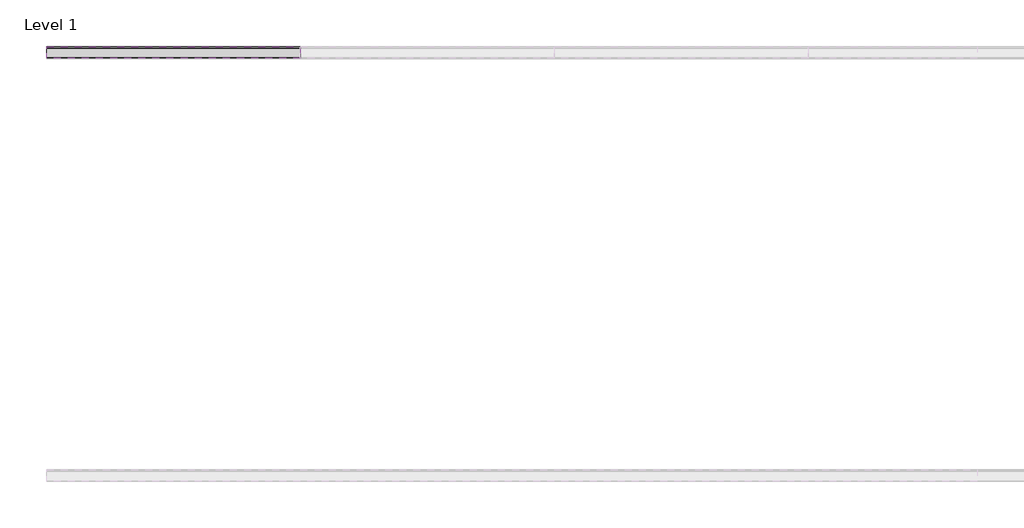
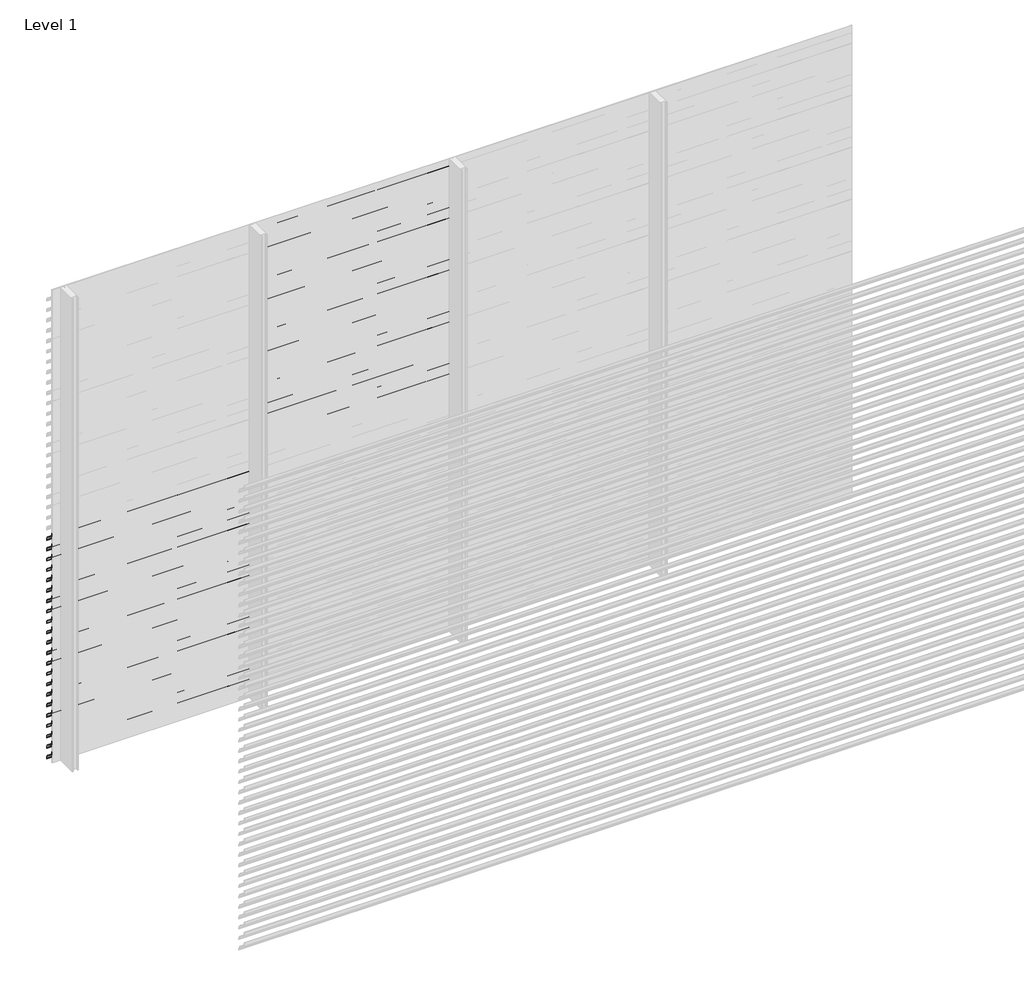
# One storey, part 125 of 540: 43 proxies.
"""IFC4 building model written with IfcOpenShell, lengths in millimetres."""

from ifc_helpers import new_model, si_unit, point, frame, frame_2d, origin, place, context, project, spatial, polyline, circle_curve, trimmed, segment, composite_curve, outline, extrude, element, save

model = new_model("IFC4")

# Units and contexts
model_context = context("Model", 3, world=origin())
ifc_project = project(units=[si_unit("LENGTHUNIT", "METRE", prefix="MILLI")], contexts=[model_context])

# Site, building, storey
site = spatial("IfcSite", under=ifc_project)
building = spatial("IfcBuilding", under=site)
storey = spatial("IfcBuildingStorey", under=building, Name="Level 1", Elevation=0.0)

# Proxies
placement = place(None, origin())
element("IfcBuildingElementProxy", 1, Name="Wall Sweeps", at=placement, inside=storey, context=model_context, shape_type="SweptSolid", body=[
    extrude(outline(composite_curve([segment(trimmed(circle_curve(frame_2d((14013.609548, 1381.7676769)), 26.4944656), [point((14030.5717655, 1402.1205608))], [point((14040.0540136, 1383.3946208))], False, "CARTESIAN"), True, "CONTINUOUS"), segment(polyline([(14040.0540136, 1383.3946208), (14040.0540136, 1375.5), (14038.8040136, 1376.2216933), (14038.8040136, 1381.7676769)]), True, "CONTINUOUS"), segment(trimmed(circle_curve(frame_2d((14013.609548, 1381.7676769)), 25.1944656), [point((14038.8040136, 1381.7676769))], [point((14029.7815085, 1401.086807))], True, "CARTESIAN"), True, "CONTINUOUS"), segment(polyline([(14029.7815085, 1401.086807), (13985.0540136, 1432.3158044), (13985.0540136, 1452.0), (13986.3040136, 1452.0), (13986.3040136, 1433.0285629), (14030.5717655, 1402.1205608)]), True, "CONTINUOUS")], self_intersect=False)), frame((89466.6208097, 0.0, 0.0), z_axis=(1.0, 0.0, 0.0), x_axis=(0.0, 1.0, 0.0)), (0.0, 0.0, 1.0), 1200.0000002),
])
element("IfcBuildingElementProxy", 2, Name="Wall Sweeps", at=placement, inside=storey, context=model_context, shape_type="SweptSolid", body=[
    extrude(outline(composite_curve([segment(trimmed(circle_curve(frame_2d((14013.609548, 1315.7676769)), 26.4944656), [point((14030.5717655, 1336.1205608))], [point((14040.0540136, 1317.3946208))], False, "CARTESIAN"), True, "CONTINUOUS"), segment(polyline([(14040.0540136, 1317.3946208), (14040.0540136, 1309.5), (14038.8040136, 1310.2216933), (14038.8040136, 1315.7676769)]), True, "CONTINUOUS"), segment(trimmed(circle_curve(frame_2d((14013.609548, 1315.7676769)), 25.1944656), [point((14038.8040136, 1315.7676769))], [point((14029.7815085, 1335.086807))], True, "CARTESIAN"), True, "CONTINUOUS"), segment(polyline([(14029.7815085, 1335.086807), (13985.0540136, 1366.3158044), (13985.0540136, 1386.0), (13986.3040136, 1386.0), (13986.3040136, 1367.0285629), (14030.5717655, 1336.1205608)]), True, "CONTINUOUS")], self_intersect=False)), frame((89466.6208097, 0.0, 0.0), z_axis=(1.0, 0.0, 0.0), x_axis=(0.0, 1.0, 0.0)), (0.0, 0.0, 1.0), 1200.0000002),
])
element("IfcBuildingElementProxy", 3, Name="Wall Sweeps", at=placement, inside=storey, context=model_context, shape_type="SweptSolid", body=[
    extrude(outline(composite_curve([segment(trimmed(circle_curve(frame_2d((14013.609548, 1249.7676769)), 26.4944656), [point((14030.5717655, 1270.1205608))], [point((14040.0540136, 1251.3946208))], False, "CARTESIAN"), True, "CONTINUOUS"), segment(polyline([(14040.0540136, 1251.3946208), (14040.0540136, 1243.5), (14038.8040136, 1244.2216933), (14038.8040136, 1249.7676769)]), True, "CONTINUOUS"), segment(trimmed(circle_curve(frame_2d((14013.609548, 1249.7676769)), 25.1944656), [point((14038.8040136, 1249.7676769))], [point((14029.7815085, 1269.086807))], True, "CARTESIAN"), True, "CONTINUOUS"), segment(polyline([(14029.7815085, 1269.086807), (13985.0540136, 1300.3158044), (13985.0540136, 1320.0), (13986.3040136, 1320.0), (13986.3040136, 1301.0285629), (14030.5717655, 1270.1205608)]), True, "CONTINUOUS")], self_intersect=False)), frame((89466.6208097, 0.0, 0.0), z_axis=(1.0, 0.0, 0.0), x_axis=(0.0, 1.0, 0.0)), (0.0, 0.0, 1.0), 1200.0000002),
])
element("IfcBuildingElementProxy", 4, Name="Wall Sweeps", at=placement, inside=storey, context=model_context, shape_type="SweptSolid", body=[
    extrude(outline(composite_curve([segment(trimmed(circle_curve(frame_2d((14013.609548, 1183.7676769)), 26.4944656), [point((14030.5717655, 1204.1205608))], [point((14040.0540136, 1185.3946208))], False, "CARTESIAN"), True, "CONTINUOUS"), segment(polyline([(14040.0540136, 1185.3946208), (14040.0540136, 1177.5), (14038.8040136, 1178.2216933), (14038.8040136, 1183.7676769)]), True, "CONTINUOUS"), segment(trimmed(circle_curve(frame_2d((14013.609548, 1183.7676769)), 25.1944656), [point((14038.8040136, 1183.7676769))], [point((14029.7815085, 1203.086807))], True, "CARTESIAN"), True, "CONTINUOUS"), segment(polyline([(14029.7815085, 1203.086807), (13985.0540136, 1234.3158044), (13985.0540136, 1254.0), (13986.3040136, 1254.0), (13986.3040136, 1235.0285629), (14030.5717655, 1204.1205608)]), True, "CONTINUOUS")], self_intersect=False)), frame((89466.6208097, 0.0, 0.0), z_axis=(1.0, 0.0, 0.0), x_axis=(0.0, 1.0, 0.0)), (0.0, 0.0, 1.0), 1200.0000002),
])
element("IfcBuildingElementProxy", 5, Name="Wall Sweeps", at=placement, inside=storey, context=model_context, shape_type="SweptSolid", body=[
    extrude(outline(composite_curve([segment(trimmed(circle_curve(frame_2d((14013.609548, 1117.7676769)), 26.4944656), [point((14030.5717655, 1138.1205608))], [point((14040.0540136, 1119.3946208))], False, "CARTESIAN"), True, "CONTINUOUS"), segment(polyline([(14040.0540136, 1119.3946208), (14040.0540136, 1111.5), (14038.8040136, 1112.2216933), (14038.8040136, 1117.7676769)]), True, "CONTINUOUS"), segment(trimmed(circle_curve(frame_2d((14013.609548, 1117.7676769)), 25.1944656), [point((14038.8040136, 1117.7676769))], [point((14029.7815085, 1137.086807))], True, "CARTESIAN"), True, "CONTINUOUS"), segment(polyline([(14029.7815085, 1137.086807), (13985.0540136, 1168.3158044), (13985.0540136, 1188.0), (13986.3040136, 1188.0), (13986.3040136, 1169.0285629), (14030.5717655, 1138.1205608)]), True, "CONTINUOUS")], self_intersect=False)), frame((89466.6208097, 0.0, 0.0), z_axis=(1.0, 0.0, 0.0), x_axis=(0.0, 1.0, 0.0)), (0.0, 0.0, 1.0), 1200.0000002),
])
element("IfcBuildingElementProxy", 6, Name="Wall Sweeps", at=placement, inside=storey, context=model_context, shape_type="SweptSolid", body=[
    extrude(outline(composite_curve([segment(trimmed(circle_curve(frame_2d((14013.609548, 1051.7676769)), 26.4944656), [point((14030.5717655, 1072.1205608))], [point((14040.0540136, 1053.3946208))], False, "CARTESIAN"), True, "CONTINUOUS"), segment(polyline([(14040.0540136, 1053.3946208), (14040.0540136, 1045.5), (14038.8040136, 1046.2216933), (14038.8040136, 1051.7676769)]), True, "CONTINUOUS"), segment(trimmed(circle_curve(frame_2d((14013.609548, 1051.7676769)), 25.1944656), [point((14038.8040136, 1051.7676769))], [point((14029.7815085, 1071.086807))], True, "CARTESIAN"), True, "CONTINUOUS"), segment(polyline([(14029.7815085, 1071.086807), (13985.0540136, 1102.3158044), (13985.0540136, 1122.0), (13986.3040136, 1122.0), (13986.3040136, 1103.0285629), (14030.5717655, 1072.1205608)]), True, "CONTINUOUS")], self_intersect=False)), frame((89466.6208097, 0.0, 0.0), z_axis=(1.0, 0.0, 0.0), x_axis=(0.0, 1.0, 0.0)), (0.0, 0.0, 1.0), 1200.0000002),
])
element("IfcBuildingElementProxy", 7, Name="Wall Sweeps", at=placement, inside=storey, context=model_context, shape_type="SweptSolid", body=[
    extrude(outline(composite_curve([segment(trimmed(circle_curve(frame_2d((14013.609548, 985.7676769)), 26.4944656), [point((14030.5717655, 1006.1205608))], [point((14040.0540136, 987.3946208))], False, "CARTESIAN"), True, "CONTINUOUS"), segment(polyline([(14040.0540136, 987.3946208), (14040.0540136, 979.5), (14038.8040136, 980.2216933), (14038.8040136, 985.7676769)]), True, "CONTINUOUS"), segment(trimmed(circle_curve(frame_2d((14013.609548, 985.7676769)), 25.1944656), [point((14038.8040136, 985.7676769))], [point((14029.7815085, 1005.086807))], True, "CARTESIAN"), True, "CONTINUOUS"), segment(polyline([(14029.7815085, 1005.086807), (13985.0540136, 1036.3158044), (13985.0540136, 1056.0), (13986.3040136, 1056.0), (13986.3040136, 1037.0285629), (14030.5717655, 1006.1205608)]), True, "CONTINUOUS")], self_intersect=False)), frame((89466.6208097, 0.0, 0.0), z_axis=(1.0, 0.0, 0.0), x_axis=(0.0, 1.0, 0.0)), (0.0, 0.0, 1.0), 1200.0000002),
])
element("IfcBuildingElementProxy", 8, Name="Wall Sweeps", at=placement, inside=storey, context=model_context, shape_type="SweptSolid", body=[
    extrude(outline(composite_curve([segment(trimmed(circle_curve(frame_2d((14013.609548, 919.7676769)), 26.4944656), [point((14030.5717655, 940.1205608))], [point((14040.0540136, 921.3946208))], False, "CARTESIAN"), True, "CONTINUOUS"), segment(polyline([(14040.0540136, 921.3946208), (14040.0540136, 913.5), (14038.8040136, 914.2216933), (14038.8040136, 919.7676769)]), True, "CONTINUOUS"), segment(trimmed(circle_curve(frame_2d((14013.609548, 919.7676769)), 25.1944656), [point((14038.8040136, 919.7676769))], [point((14029.7815085, 939.086807))], True, "CARTESIAN"), True, "CONTINUOUS"), segment(polyline([(14029.7815085, 939.086807), (13985.0540136, 970.3158044), (13985.0540136, 990.0), (13986.3040136, 990.0), (13986.3040136, 971.0285629), (14030.5717655, 940.1205608)]), True, "CONTINUOUS")], self_intersect=False)), frame((89466.6208097, 0.0, 0.0), z_axis=(1.0, 0.0, 0.0), x_axis=(0.0, 1.0, 0.0)), (0.0, 0.0, 1.0), 1200.0000002),
])
element("IfcBuildingElementProxy", 9, Name="Wall Sweeps", at=placement, inside=storey, context=model_context, shape_type="SweptSolid", body=[
    extrude(outline(composite_curve([segment(trimmed(circle_curve(frame_2d((14013.609548, 853.7676769)), 26.4944656), [point((14030.5717655, 874.1205608))], [point((14040.0540136, 855.3946208))], False, "CARTESIAN"), True, "CONTINUOUS"), segment(polyline([(14040.0540136, 855.3946208), (14040.0540136, 847.5), (14038.8040136, 848.2216933), (14038.8040136, 853.7676769)]), True, "CONTINUOUS"), segment(trimmed(circle_curve(frame_2d((14013.609548, 853.7676769)), 25.1944656), [point((14038.8040136, 853.7676769))], [point((14029.7815085, 873.086807))], True, "CARTESIAN"), True, "CONTINUOUS"), segment(polyline([(14029.7815085, 873.086807), (13985.0540136, 904.3158044), (13985.0540136, 924.0), (13986.3040136, 924.0), (13986.3040136, 905.0285629), (14030.5717655, 874.1205608)]), True, "CONTINUOUS")], self_intersect=False)), frame((89466.6208097, 0.0, 0.0), z_axis=(1.0, 0.0, 0.0), x_axis=(0.0, 1.0, 0.0)), (0.0, 0.0, 1.0), 1200.0000002),
])
element("IfcBuildingElementProxy", 10, Name="Wall Sweeps", at=placement, inside=storey, context=model_context, shape_type="SweptSolid", body=[
    extrude(outline(composite_curve([segment(trimmed(circle_curve(frame_2d((14013.609548, 787.7676769)), 26.4944656), [point((14030.5717655, 808.1205608))], [point((14040.0540136, 789.3946208))], False, "CARTESIAN"), True, "CONTINUOUS"), segment(polyline([(14040.0540136, 789.3946208), (14040.0540136, 781.5), (14038.8040136, 782.2216933), (14038.8040136, 787.7676769)]), True, "CONTINUOUS"), segment(trimmed(circle_curve(frame_2d((14013.609548, 787.7676769)), 25.1944656), [point((14038.8040136, 787.7676769))], [point((14029.7815085, 807.086807))], True, "CARTESIAN"), True, "CONTINUOUS"), segment(polyline([(14029.7815085, 807.086807), (13985.0540136, 838.3158044), (13985.0540136, 858.0), (13986.3040136, 858.0), (13986.3040136, 839.0285629), (14030.5717655, 808.1205608)]), True, "CONTINUOUS")], self_intersect=False)), frame((89466.6208097, 0.0, 0.0), z_axis=(1.0, 0.0, 0.0), x_axis=(0.0, 1.0, 0.0)), (0.0, 0.0, 1.0), 1200.0000002),
])
element("IfcBuildingElementProxy", 11, Name="Wall Sweeps", at=placement, inside=storey, context=model_context, shape_type="SweptSolid", body=[
    extrude(outline(composite_curve([segment(trimmed(circle_curve(frame_2d((14013.609548, 721.7676769)), 26.4944656), [point((14030.5717655, 742.1205608))], [point((14040.0540136, 723.3946208))], False, "CARTESIAN"), True, "CONTINUOUS"), segment(polyline([(14040.0540136, 723.3946208), (14040.0540136, 715.5), (14038.8040136, 716.2216933), (14038.8040136, 721.7676769)]), True, "CONTINUOUS"), segment(trimmed(circle_curve(frame_2d((14013.609548, 721.7676769)), 25.1944656), [point((14038.8040136, 721.7676769))], [point((14029.7815085, 741.086807))], True, "CARTESIAN"), True, "CONTINUOUS"), segment(polyline([(14029.7815085, 741.086807), (13985.0540136, 772.3158044), (13985.0540136, 792.0), (13986.3040136, 792.0), (13986.3040136, 773.0285629), (14030.5717655, 742.1205608)]), True, "CONTINUOUS")], self_intersect=False)), frame((89466.6208097, 0.0, 0.0), z_axis=(1.0, 0.0, 0.0), x_axis=(0.0, 1.0, 0.0)), (0.0, 0.0, 1.0), 1200.0000002),
])
element("IfcBuildingElementProxy", 12, Name="Wall Sweeps", at=placement, inside=storey, context=model_context, shape_type="SweptSolid", body=[
    extrude(outline(composite_curve([segment(trimmed(circle_curve(frame_2d((14013.609548, 655.7676769)), 26.4944656), [point((14030.5717655, 676.1205608))], [point((14040.0540136, 657.3946208))], False, "CARTESIAN"), True, "CONTINUOUS"), segment(polyline([(14040.0540136, 657.3946208), (14040.0540136, 649.5), (14038.8040136, 650.2216933), (14038.8040136, 655.7676769)]), True, "CONTINUOUS"), segment(trimmed(circle_curve(frame_2d((14013.609548, 655.7676769)), 25.1944656), [point((14038.8040136, 655.7676769))], [point((14029.7815085, 675.086807))], True, "CARTESIAN"), True, "CONTINUOUS"), segment(polyline([(14029.7815085, 675.086807), (13985.0540136, 706.3158044), (13985.0540136, 726.0), (13986.3040136, 726.0), (13986.3040136, 707.0285629), (14030.5717655, 676.1205608)]), True, "CONTINUOUS")], self_intersect=False)), frame((89466.6208097, 0.0, 0.0), z_axis=(1.0, 0.0, 0.0), x_axis=(0.0, 1.0, 0.0)), (0.0, 0.0, 1.0), 1200.0000002),
])
element("IfcBuildingElementProxy", 13, Name="Wall Sweeps", at=placement, inside=storey, context=model_context, shape_type="SweptSolid", body=[
    extrude(outline(composite_curve([segment(trimmed(circle_curve(frame_2d((14013.609548, 589.7676769)), 26.4944656), [point((14030.5717655, 610.1205608))], [point((14040.0540136, 591.3946208))], False, "CARTESIAN"), True, "CONTINUOUS"), segment(polyline([(14040.0540136, 591.3946208), (14040.0540136, 583.5), (14038.8040136, 584.2216933), (14038.8040136, 589.7676769)]), True, "CONTINUOUS"), segment(trimmed(circle_curve(frame_2d((14013.609548, 589.7676769)), 25.1944656), [point((14038.8040136, 589.7676769))], [point((14029.7815085, 609.086807))], True, "CARTESIAN"), True, "CONTINUOUS"), segment(polyline([(14029.7815085, 609.086807), (13985.0540136, 640.3158044), (13985.0540136, 660.0), (13986.3040136, 660.0), (13986.3040136, 641.0285629), (14030.5717655, 610.1205608)]), True, "CONTINUOUS")], self_intersect=False)), frame((89466.6208097, 0.0, 0.0), z_axis=(1.0, 0.0, 0.0), x_axis=(0.0, 1.0, 0.0)), (0.0, 0.0, 1.0), 1200.0000002),
])
element("IfcBuildingElementProxy", 14, Name="Wall Sweeps", at=placement, inside=storey, context=model_context, shape_type="SweptSolid", body=[
    extrude(outline(composite_curve([segment(trimmed(circle_curve(frame_2d((14013.609548, 523.7676769)), 26.4944656), [point((14030.5717655, 544.1205608))], [point((14040.0540136, 525.3946208))], False, "CARTESIAN"), True, "CONTINUOUS"), segment(polyline([(14040.0540136, 525.3946208), (14040.0540136, 517.5), (14038.8040136, 518.2216933), (14038.8040136, 523.7676769)]), True, "CONTINUOUS"), segment(trimmed(circle_curve(frame_2d((14013.609548, 523.7676769)), 25.1944656), [point((14038.8040136, 523.7676769))], [point((14029.7815085, 543.086807))], True, "CARTESIAN"), True, "CONTINUOUS"), segment(polyline([(14029.7815085, 543.086807), (13985.0540136, 574.3158044), (13985.0540136, 594.0), (13986.3040136, 594.0), (13986.3040136, 575.0285629), (14030.5717655, 544.1205608)]), True, "CONTINUOUS")], self_intersect=False)), frame((89466.6208097, 0.0, 0.0), z_axis=(1.0, 0.0, 0.0), x_axis=(0.0, 1.0, 0.0)), (0.0, 0.0, 1.0), 1200.0000002),
])
element("IfcBuildingElementProxy", 15, Name="Wall Sweeps", at=placement, inside=storey, context=model_context, shape_type="SweptSolid", body=[
    extrude(outline(composite_curve([segment(trimmed(circle_curve(frame_2d((14013.609548, 457.7676769)), 26.4944656), [point((14030.5717655, 478.1205608))], [point((14040.0540136, 459.3946208))], False, "CARTESIAN"), True, "CONTINUOUS"), segment(polyline([(14040.0540136, 459.3946208), (14040.0540136, 451.5), (14038.8040136, 452.2216933), (14038.8040136, 457.7676769)]), True, "CONTINUOUS"), segment(trimmed(circle_curve(frame_2d((14013.609548, 457.7676769)), 25.1944656), [point((14038.8040136, 457.7676769))], [point((14029.7815085, 477.086807))], True, "CARTESIAN"), True, "CONTINUOUS"), segment(polyline([(14029.7815085, 477.086807), (13985.0540136, 508.3158044), (13985.0540136, 528.0), (13986.3040136, 528.0), (13986.3040136, 509.0285629), (14030.5717655, 478.1205608)]), True, "CONTINUOUS")], self_intersect=False)), frame((89466.6208097, 0.0, 0.0), z_axis=(1.0, 0.0, 0.0), x_axis=(0.0, 1.0, 0.0)), (0.0, 0.0, 1.0), 1200.0000002),
])
element("IfcBuildingElementProxy", 16, Name="Wall Sweeps", at=placement, inside=storey, context=model_context, shape_type="SweptSolid", body=[
    extrude(outline(composite_curve([segment(trimmed(circle_curve(frame_2d((14013.609548, 391.7676769)), 26.4944656), [point((14030.5717655, 412.1205608))], [point((14040.0540136, 393.3946208))], False, "CARTESIAN"), True, "CONTINUOUS"), segment(polyline([(14040.0540136, 393.3946208), (14040.0540136, 385.5), (14038.8040136, 386.2216933), (14038.8040136, 391.7676769)]), True, "CONTINUOUS"), segment(trimmed(circle_curve(frame_2d((14013.609548, 391.7676769)), 25.1944656), [point((14038.8040136, 391.7676769))], [point((14029.7815085, 411.086807))], True, "CARTESIAN"), True, "CONTINUOUS"), segment(polyline([(14029.7815085, 411.086807), (13985.0540136, 442.3158044), (13985.0540136, 462.0), (13986.3040136, 462.0), (13986.3040136, 443.0285629), (14030.5717655, 412.1205608)]), True, "CONTINUOUS")], self_intersect=False)), frame((89466.6208097, 0.0, 0.0), z_axis=(1.0, 0.0, 0.0), x_axis=(0.0, 1.0, 0.0)), (0.0, 0.0, 1.0), 1200.0000002),
])
element("IfcBuildingElementProxy", 17, Name="Wall Sweeps", at=placement, inside=storey, context=model_context, shape_type="SweptSolid", body=[
    extrude(outline(composite_curve([segment(trimmed(circle_curve(frame_2d((14013.609548, 325.7676769)), 26.4944656), [point((14030.5717655, 346.1205608))], [point((14040.0540136, 327.3946208))], False, "CARTESIAN"), True, "CONTINUOUS"), segment(polyline([(14040.0540136, 327.3946208), (14040.0540136, 319.5), (14038.8040136, 320.2216933), (14038.8040136, 325.7676769)]), True, "CONTINUOUS"), segment(trimmed(circle_curve(frame_2d((14013.609548, 325.7676769)), 25.1944656), [point((14038.8040136, 325.7676769))], [point((14029.7815085, 345.086807))], True, "CARTESIAN"), True, "CONTINUOUS"), segment(polyline([(14029.7815085, 345.086807), (13985.0540136, 376.3158044), (13985.0540136, 396.0), (13986.3040136, 396.0), (13986.3040136, 377.0285629), (14030.5717655, 346.1205608)]), True, "CONTINUOUS")], self_intersect=False)), frame((89466.6208097, 0.0, 0.0), z_axis=(1.0, 0.0, 0.0), x_axis=(0.0, 1.0, 0.0)), (0.0, 0.0, 1.0), 1200.0000002),
])
element("IfcBuildingElementProxy", 18, Name="Wall Sweeps", at=placement, inside=storey, context=model_context, shape_type="SweptSolid", body=[
    extrude(outline(composite_curve([segment(trimmed(circle_curve(frame_2d((14013.609548, 259.7676769)), 26.4944656), [point((14030.5717655, 280.1205608))], [point((14040.0540136, 261.3946208))], False, "CARTESIAN"), True, "CONTINUOUS"), segment(polyline([(14040.0540136, 261.3946208), (14040.0540136, 253.5), (14038.8040136, 254.2216933), (14038.8040136, 259.7676769)]), True, "CONTINUOUS"), segment(trimmed(circle_curve(frame_2d((14013.609548, 259.7676769)), 25.1944656), [point((14038.8040136, 259.7676769))], [point((14029.7815085, 279.086807))], True, "CARTESIAN"), True, "CONTINUOUS"), segment(polyline([(14029.7815085, 279.086807), (13985.0540136, 310.3158044), (13985.0540136, 330.0), (13986.3040136, 330.0), (13986.3040136, 311.0285629), (14030.5717655, 280.1205608)]), True, "CONTINUOUS")], self_intersect=False)), frame((89466.6208097, 0.0, 0.0), z_axis=(1.0, 0.0, 0.0), x_axis=(0.0, 1.0, 0.0)), (0.0, 0.0, 1.0), 1200.0000002),
])
element("IfcBuildingElementProxy", 19, Name="Wall Sweeps", at=placement, inside=storey, context=model_context, shape_type="SweptSolid", body=[
    extrude(outline(composite_curve([segment(trimmed(circle_curve(frame_2d((14013.609548, 193.7676769)), 26.4944656), [point((14030.5717655, 214.1205608))], [point((14040.0540136, 195.3946208))], False, "CARTESIAN"), True, "CONTINUOUS"), segment(polyline([(14040.0540136, 195.3946208), (14040.0540136, 187.5), (14038.8040136, 188.2216933), (14038.8040136, 193.7676769)]), True, "CONTINUOUS"), segment(trimmed(circle_curve(frame_2d((14013.609548, 193.7676769)), 25.1944656), [point((14038.8040136, 193.7676769))], [point((14029.7815085, 213.086807))], True, "CARTESIAN"), True, "CONTINUOUS"), segment(polyline([(14029.7815085, 213.086807), (13985.0540136, 244.3158044), (13985.0540136, 264.0), (13986.3040136, 264.0), (13986.3040136, 245.0285629), (14030.5717655, 214.1205608)]), True, "CONTINUOUS")], self_intersect=False)), frame((89466.6208097, 0.0, 0.0), z_axis=(1.0, 0.0, 0.0), x_axis=(0.0, 1.0, 0.0)), (0.0, 0.0, 1.0), 1200.0000002),
])
element("IfcBuildingElementProxy", 20, Name="Wall Sweeps", at=placement, inside=storey, context=model_context, shape_type="SweptSolid", body=[
    extrude(outline(composite_curve([segment(trimmed(circle_curve(frame_2d((14013.609548, 127.7676769)), 26.4944656), [point((14030.5717655, 148.1205608))], [point((14040.0540136, 129.3946208))], False, "CARTESIAN"), True, "CONTINUOUS"), segment(polyline([(14040.0540136, 129.3946208), (14040.0540136, 121.5), (14038.8040136, 122.2216933), (14038.8040136, 127.7676769)]), True, "CONTINUOUS"), segment(trimmed(circle_curve(frame_2d((14013.609548, 127.7676769)), 25.1944656), [point((14038.8040136, 127.7676769))], [point((14029.7815085, 147.086807))], True, "CARTESIAN"), True, "CONTINUOUS"), segment(polyline([(14029.7815085, 147.086807), (13985.0540136, 178.3158044), (13985.0540136, 198.0), (13986.3040136, 198.0), (13986.3040136, 179.0285629), (14030.5717655, 148.1205608)]), True, "CONTINUOUS")], self_intersect=False)), frame((89466.6208097, 0.0, 0.0), z_axis=(1.0, 0.0, 0.0), x_axis=(0.0, 1.0, 0.0)), (0.0, 0.0, 1.0), 1200.0000002),
])
element("IfcBuildingElementProxy", 21, Name="Wall Sweeps", at=placement, inside=storey, context=model_context, shape_type="SweptSolid", body=[
    extrude(outline(composite_curve([segment(trimmed(circle_curve(frame_2d((14013.609548, 61.7676769)), 26.4944656), [point((14030.5717655, 82.1205608))], [point((14040.0540136, 63.3946208))], False, "CARTESIAN"), True, "CONTINUOUS"), segment(polyline([(14040.0540136, 63.3946208), (14040.0540136, 55.5), (14038.8040136, 56.2216933), (14038.8040136, 61.7676769)]), True, "CONTINUOUS"), segment(trimmed(circle_curve(frame_2d((14013.609548, 61.7676769)), 25.1944656), [point((14038.8040136, 61.7676769))], [point((14029.7815085, 81.086807))], True, "CARTESIAN"), True, "CONTINUOUS"), segment(polyline([(14029.7815085, 81.086807), (13985.0540136, 112.3158044), (13985.0540136, 132.0), (13986.3040136, 132.0), (13986.3040136, 113.0285629), (14030.5717655, 82.1205608)]), True, "CONTINUOUS")], self_intersect=False)), frame((89466.6208097, 0.0, 0.0), z_axis=(1.0, 0.0, 0.0), x_axis=(0.0, 1.0, 0.0)), (0.0, 0.0, 1.0), 1200.0000002),
])
element("IfcBuildingElementProxy", 22, Name="Wall Sweeps", at=placement, inside=storey, context=model_context, shape_type="SweptSolid", body=[
    extrude(outline(composite_curve([segment(trimmed(circle_curve(frame_2d((14013.609548, -4.2323231)), 26.4944656), [point((14030.5717655, 16.1205608))], [point((14040.0540136, -2.6053792))], False, "CARTESIAN"), True, "CONTINUOUS"), segment(polyline([(14040.0540136, -2.6053792), (14040.0540136, -10.5), (14038.8040136, -9.7783067), (14038.8040136, -4.2323231)]), True, "CONTINUOUS"), segment(trimmed(circle_curve(frame_2d((14013.609548, -4.2323231)), 25.1944656), [point((14038.8040136, -4.2323231))], [point((14029.7815085, 15.086807))], True, "CARTESIAN"), True, "CONTINUOUS"), segment(polyline([(14029.7815085, 15.086807), (13985.0540136, 46.3158044), (13985.0540136, 66.0), (13986.3040136, 66.0), (13986.3040136, 47.0285629), (14030.5717655, 16.1205608)]), True, "CONTINUOUS")], self_intersect=False)), frame((89466.6208097, 0.0, 0.0), z_axis=(1.0, 0.0, 0.0), x_axis=(0.0, 1.0, 0.0)), (0.0, 0.0, 1.0), 1200.0000002),
])
element("IfcBuildingElementProxy", 23, Name="Wall Sweeps", at=placement, inside=storey, context=model_context, shape_type="SweptSolid", body=[
    extrude(outline(composite_curve([segment(trimmed(circle_curve(frame_2d((14013.609548, 2899.7676769)), 26.4944656), [point((14030.5717655, 2920.1205608))], [point((14040.0540136, 2901.3946208))], False, "CARTESIAN"), True, "CONTINUOUS"), segment(polyline([(14040.0540136, 2901.3946208), (14040.0540136, 2893.5), (14038.8040136, 2894.2216933), (14038.8040136, 2899.7676769)]), True, "CONTINUOUS"), segment(trimmed(circle_curve(frame_2d((14013.609548, 2899.7676769)), 25.1944656), [point((14038.8040136, 2899.7676769))], [point((14029.7815085, 2919.086807))], True, "CARTESIAN"), True, "CONTINUOUS"), segment(polyline([(14029.7815085, 2919.086807), (13985.0540136, 2950.3158044), (13985.0540136, 2970.0), (13986.3040136, 2970.0), (13986.3040136, 2951.0285629), (14030.5717655, 2920.1205608)]), True, "CONTINUOUS")], self_intersect=False)), frame((90666.6208099, 0.0, 0.0), z_axis=(1.0, 0.0, 0.0), x_axis=(0.0, 1.0, 0.0)), (0.0, 0.0, 1.0), 1199.9999999),
])
element("IfcBuildingElementProxy", 24, Name="Wall Sweeps", at=placement, inside=storey, context=model_context, shape_type="SweptSolid", body=[
    extrude(outline(composite_curve([segment(trimmed(circle_curve(frame_2d((14013.609548, 2833.7676769)), 26.4944656), [point((14030.5717655, 2854.1205608))], [point((14040.0540136, 2835.3946208))], False, "CARTESIAN"), True, "CONTINUOUS"), segment(polyline([(14040.0540136, 2835.3946208), (14040.0540136, 2827.5), (14038.8040136, 2828.2216933), (14038.8040136, 2833.7676769)]), True, "CONTINUOUS"), segment(trimmed(circle_curve(frame_2d((14013.609548, 2833.7676769)), 25.1944656), [point((14038.8040136, 2833.7676769))], [point((14029.7815085, 2853.086807))], True, "CARTESIAN"), True, "CONTINUOUS"), segment(polyline([(14029.7815085, 2853.086807), (13985.0540136, 2884.3158044), (13985.0540136, 2904.0), (13986.3040136, 2904.0), (13986.3040136, 2885.0285629), (14030.5717655, 2854.1205608)]), True, "CONTINUOUS")], self_intersect=False)), frame((90666.6208099, 0.0, 0.0), z_axis=(1.0, 0.0, 0.0), x_axis=(0.0, 1.0, 0.0)), (0.0, 0.0, 1.0), 1199.9999999),
])
element("IfcBuildingElementProxy", 25, Name="Wall Sweeps", at=placement, inside=storey, context=model_context, shape_type="SweptSolid", body=[
    extrude(outline(composite_curve([segment(trimmed(circle_curve(frame_2d((14013.609548, 2767.7676769)), 26.4944656), [point((14030.5717655, 2788.1205608))], [point((14040.0540136, 2769.3946208))], False, "CARTESIAN"), True, "CONTINUOUS"), segment(polyline([(14040.0540136, 2769.3946208), (14040.0540136, 2761.5), (14038.8040136, 2762.2216933), (14038.8040136, 2767.7676769)]), True, "CONTINUOUS"), segment(trimmed(circle_curve(frame_2d((14013.609548, 2767.7676769)), 25.1944656), [point((14038.8040136, 2767.7676769))], [point((14029.7815085, 2787.086807))], True, "CARTESIAN"), True, "CONTINUOUS"), segment(polyline([(14029.7815085, 2787.086807), (13985.0540136, 2818.3158044), (13985.0540136, 2838.0), (13986.3040136, 2838.0), (13986.3040136, 2819.0285629), (14030.5717655, 2788.1205608)]), True, "CONTINUOUS")], self_intersect=False)), frame((90666.6208099, 0.0, 0.0), z_axis=(1.0, 0.0, 0.0), x_axis=(0.0, 1.0, 0.0)), (0.0, 0.0, 1.0), 1199.9999999),
])
element("IfcBuildingElementProxy", 26, Name="Wall Sweeps", at=placement, inside=storey, context=model_context, shape_type="SweptSolid", body=[
    extrude(outline(composite_curve([segment(trimmed(circle_curve(frame_2d((14013.609548, 2701.7676769)), 26.4944656), [point((14030.5717655, 2722.1205608))], [point((14040.0540136, 2703.3946208))], False, "CARTESIAN"), True, "CONTINUOUS"), segment(polyline([(14040.0540136, 2703.3946208), (14040.0540136, 2695.5), (14038.8040136, 2696.2216933), (14038.8040136, 2701.7676769)]), True, "CONTINUOUS"), segment(trimmed(circle_curve(frame_2d((14013.609548, 2701.7676769)), 25.1944656), [point((14038.8040136, 2701.7676769))], [point((14029.7815085, 2721.086807))], True, "CARTESIAN"), True, "CONTINUOUS"), segment(polyline([(14029.7815085, 2721.086807), (13985.0540136, 2752.3158044), (13985.0540136, 2772.0), (13986.3040136, 2772.0), (13986.3040136, 2753.0285629), (14030.5717655, 2722.1205608)]), True, "CONTINUOUS")], self_intersect=False)), frame((90666.6208099, 0.0, 0.0), z_axis=(1.0, 0.0, 0.0), x_axis=(0.0, 1.0, 0.0)), (0.0, 0.0, 1.0), 1199.9999999),
])
element("IfcBuildingElementProxy", 27, Name="Wall Sweeps", at=placement, inside=storey, context=model_context, shape_type="SweptSolid", body=[
    extrude(outline(composite_curve([segment(trimmed(circle_curve(frame_2d((14013.609548, 2635.7676769)), 26.4944656), [point((14030.5717655, 2656.1205608))], [point((14040.0540136, 2637.3946208))], False, "CARTESIAN"), True, "CONTINUOUS"), segment(polyline([(14040.0540136, 2637.3946208), (14040.0540136, 2629.5), (14038.8040136, 2630.2216933), (14038.8040136, 2635.7676769)]), True, "CONTINUOUS"), segment(trimmed(circle_curve(frame_2d((14013.609548, 2635.7676769)), 25.1944656), [point((14038.8040136, 2635.7676769))], [point((14029.7815085, 2655.086807))], True, "CARTESIAN"), True, "CONTINUOUS"), segment(polyline([(14029.7815085, 2655.086807), (13985.0540136, 2686.3158044), (13985.0540136, 2706.0), (13986.3040136, 2706.0), (13986.3040136, 2687.0285629), (14030.5717655, 2656.1205608)]), True, "CONTINUOUS")], self_intersect=False)), frame((90666.6208099, 0.0, 0.0), z_axis=(1.0, 0.0, 0.0), x_axis=(0.0, 1.0, 0.0)), (0.0, 0.0, 1.0), 1199.9999999),
])
element("IfcBuildingElementProxy", 28, Name="Wall Sweeps", at=placement, inside=storey, context=model_context, shape_type="SweptSolid", body=[
    extrude(outline(composite_curve([segment(trimmed(circle_curve(frame_2d((14013.609548, 2569.7676769)), 26.4944656), [point((14030.5717655, 2590.1205608))], [point((14040.0540136, 2571.3946208))], False, "CARTESIAN"), True, "CONTINUOUS"), segment(polyline([(14040.0540136, 2571.3946208), (14040.0540136, 2563.5), (14038.8040136, 2564.2216933), (14038.8040136, 2569.7676769)]), True, "CONTINUOUS"), segment(trimmed(circle_curve(frame_2d((14013.609548, 2569.7676769)), 25.1944656), [point((14038.8040136, 2569.7676769))], [point((14029.7815085, 2589.086807))], True, "CARTESIAN"), True, "CONTINUOUS"), segment(polyline([(14029.7815085, 2589.086807), (13985.0540136, 2620.3158044), (13985.0540136, 2640.0), (13986.3040136, 2640.0), (13986.3040136, 2621.0285629), (14030.5717655, 2590.1205608)]), True, "CONTINUOUS")], self_intersect=False)), frame((90666.6208099, 0.0, 0.0), z_axis=(1.0, 0.0, 0.0), x_axis=(0.0, 1.0, 0.0)), (0.0, 0.0, 1.0), 1199.9999999),
])
element("IfcBuildingElementProxy", 29, Name="Wall Sweeps", at=placement, inside=storey, context=model_context, shape_type="SweptSolid", body=[
    extrude(outline(composite_curve([segment(trimmed(circle_curve(frame_2d((14013.609548, 2503.7676769)), 26.4944656), [point((14030.5717655, 2524.1205608))], [point((14040.0540136, 2505.3946208))], False, "CARTESIAN"), True, "CONTINUOUS"), segment(polyline([(14040.0540136, 2505.3946208), (14040.0540136, 2497.5), (14038.8040136, 2498.2216933), (14038.8040136, 2503.7676769)]), True, "CONTINUOUS"), segment(trimmed(circle_curve(frame_2d((14013.609548, 2503.7676769)), 25.1944656), [point((14038.8040136, 2503.7676769))], [point((14029.7815085, 2523.086807))], True, "CARTESIAN"), True, "CONTINUOUS"), segment(polyline([(14029.7815085, 2523.086807), (13985.0540136, 2554.3158044), (13985.0540136, 2574.0), (13986.3040136, 2574.0), (13986.3040136, 2555.0285629), (14030.5717655, 2524.1205608)]), True, "CONTINUOUS")], self_intersect=False)), frame((90666.6208099, 0.0, 0.0), z_axis=(1.0, 0.0, 0.0), x_axis=(0.0, 1.0, 0.0)), (0.0, 0.0, 1.0), 1199.9999999),
])
element("IfcBuildingElementProxy", 30, Name="Wall Sweeps", at=placement, inside=storey, context=model_context, shape_type="SweptSolid", body=[
    extrude(outline(composite_curve([segment(trimmed(circle_curve(frame_2d((14013.609548, 2437.7676769)), 26.4944656), [point((14030.5717655, 2458.1205608))], [point((14040.0540136, 2439.3946208))], False, "CARTESIAN"), True, "CONTINUOUS"), segment(polyline([(14040.0540136, 2439.3946208), (14040.0540136, 2431.5), (14038.8040136, 2432.2216933), (14038.8040136, 2437.7676769)]), True, "CONTINUOUS"), segment(trimmed(circle_curve(frame_2d((14013.609548, 2437.7676769)), 25.1944656), [point((14038.8040136, 2437.7676769))], [point((14029.7815085, 2457.086807))], True, "CARTESIAN"), True, "CONTINUOUS"), segment(polyline([(14029.7815085, 2457.086807), (13985.0540136, 2488.3158044), (13985.0540136, 2508.0), (13986.3040136, 2508.0), (13986.3040136, 2489.0285629), (14030.5717655, 2458.1205608)]), True, "CONTINUOUS")], self_intersect=False)), frame((90666.6208099, 0.0, 0.0), z_axis=(1.0, 0.0, 0.0), x_axis=(0.0, 1.0, 0.0)), (0.0, 0.0, 1.0), 1199.9999999),
])
element("IfcBuildingElementProxy", 31, Name="Wall Sweeps", at=placement, inside=storey, context=model_context, shape_type="SweptSolid", body=[
    extrude(outline(composite_curve([segment(trimmed(circle_curve(frame_2d((14013.609548, 2371.7676769)), 26.4944656), [point((14030.5717655, 2392.1205608))], [point((14040.0540136, 2373.3946208))], False, "CARTESIAN"), True, "CONTINUOUS"), segment(polyline([(14040.0540136, 2373.3946208), (14040.0540136, 2365.5), (14038.8040136, 2366.2216933), (14038.8040136, 2371.7676769)]), True, "CONTINUOUS"), segment(trimmed(circle_curve(frame_2d((14013.609548, 2371.7676769)), 25.1944656), [point((14038.8040136, 2371.7676769))], [point((14029.7815085, 2391.086807))], True, "CARTESIAN"), True, "CONTINUOUS"), segment(polyline([(14029.7815085, 2391.086807), (13985.0540136, 2422.3158044), (13985.0540136, 2442.0), (13986.3040136, 2442.0), (13986.3040136, 2423.0285629), (14030.5717655, 2392.1205608)]), True, "CONTINUOUS")], self_intersect=False)), frame((90666.6208099, 0.0, 0.0), z_axis=(1.0, 0.0, 0.0), x_axis=(0.0, 1.0, 0.0)), (0.0, 0.0, 1.0), 1199.9999999),
])
element("IfcBuildingElementProxy", 32, Name="Wall Sweeps", at=placement, inside=storey, context=model_context, shape_type="SweptSolid", body=[
    extrude(outline(composite_curve([segment(trimmed(circle_curve(frame_2d((14013.609548, 2305.7676769)), 26.4944656), [point((14030.5717655, 2326.1205608))], [point((14040.0540136, 2307.3946208))], False, "CARTESIAN"), True, "CONTINUOUS"), segment(polyline([(14040.0540136, 2307.3946208), (14040.0540136, 2299.5), (14038.8040136, 2300.2216933), (14038.8040136, 2305.7676769)]), True, "CONTINUOUS"), segment(trimmed(circle_curve(frame_2d((14013.609548, 2305.7676769)), 25.1944656), [point((14038.8040136, 2305.7676769))], [point((14029.7815085, 2325.086807))], True, "CARTESIAN"), True, "CONTINUOUS"), segment(polyline([(14029.7815085, 2325.086807), (13985.0540136, 2356.3158044), (13985.0540136, 2376.0), (13986.3040136, 2376.0), (13986.3040136, 2357.0285629), (14030.5717655, 2326.1205608)]), True, "CONTINUOUS")], self_intersect=False)), frame((90666.6208099, 0.0, 0.0), z_axis=(1.0, 0.0, 0.0), x_axis=(0.0, 1.0, 0.0)), (0.0, 0.0, 1.0), 1199.9999999),
])
element("IfcBuildingElementProxy", 33, Name="Wall Sweeps", at=placement, inside=storey, context=model_context, shape_type="SweptSolid", body=[
    extrude(outline(composite_curve([segment(trimmed(circle_curve(frame_2d((14013.609548, 2239.7676769)), 26.4944656), [point((14030.5717655, 2260.1205608))], [point((14040.0540136, 2241.3946208))], False, "CARTESIAN"), True, "CONTINUOUS"), segment(polyline([(14040.0540136, 2241.3946208), (14040.0540136, 2233.5), (14038.8040136, 2234.2216933), (14038.8040136, 2239.7676769)]), True, "CONTINUOUS"), segment(trimmed(circle_curve(frame_2d((14013.609548, 2239.7676769)), 25.1944656), [point((14038.8040136, 2239.7676769))], [point((14029.7815085, 2259.086807))], True, "CARTESIAN"), True, "CONTINUOUS"), segment(polyline([(14029.7815085, 2259.086807), (13985.0540136, 2290.3158044), (13985.0540136, 2310.0), (13986.3040136, 2310.0), (13986.3040136, 2291.0285629), (14030.5717655, 2260.1205608)]), True, "CONTINUOUS")], self_intersect=False)), frame((90666.6208099, 0.0, 0.0), z_axis=(1.0, 0.0, 0.0), x_axis=(0.0, 1.0, 0.0)), (0.0, 0.0, 1.0), 1199.9999999),
])
element("IfcBuildingElementProxy", 34, Name="Wall Sweeps", at=placement, inside=storey, context=model_context, shape_type="SweptSolid", body=[
    extrude(outline(composite_curve([segment(trimmed(circle_curve(frame_2d((14013.609548, 2173.7676769)), 26.4944656), [point((14030.5717655, 2194.1205608))], [point((14040.0540136, 2175.3946208))], False, "CARTESIAN"), True, "CONTINUOUS"), segment(polyline([(14040.0540136, 2175.3946208), (14040.0540136, 2167.5), (14038.8040136, 2168.2216933), (14038.8040136, 2173.7676769)]), True, "CONTINUOUS"), segment(trimmed(circle_curve(frame_2d((14013.609548, 2173.7676769)), 25.1944656), [point((14038.8040136, 2173.7676769))], [point((14029.7815085, 2193.086807))], True, "CARTESIAN"), True, "CONTINUOUS"), segment(polyline([(14029.7815085, 2193.086807), (13985.0540136, 2224.3158044), (13985.0540136, 2244.0), (13986.3040136, 2244.0), (13986.3040136, 2225.0285629), (14030.5717655, 2194.1205608)]), True, "CONTINUOUS")], self_intersect=False)), frame((90666.6208099, 0.0, 0.0), z_axis=(1.0, 0.0, 0.0), x_axis=(0.0, 1.0, 0.0)), (0.0, 0.0, 1.0), 1199.9999999),
])
element("IfcBuildingElementProxy", 35, Name="Wall Sweeps", at=placement, inside=storey, context=model_context, shape_type="SweptSolid", body=[
    extrude(outline(composite_curve([segment(trimmed(circle_curve(frame_2d((14013.609548, 2107.7676769)), 26.4944656), [point((14030.5717655, 2128.1205608))], [point((14040.0540136, 2109.3946208))], False, "CARTESIAN"), True, "CONTINUOUS"), segment(polyline([(14040.0540136, 2109.3946208), (14040.0540136, 2101.5), (14038.8040136, 2102.2216933), (14038.8040136, 2107.7676769)]), True, "CONTINUOUS"), segment(trimmed(circle_curve(frame_2d((14013.609548, 2107.7676769)), 25.1944656), [point((14038.8040136, 2107.7676769))], [point((14029.7815085, 2127.086807))], True, "CARTESIAN"), True, "CONTINUOUS"), segment(polyline([(14029.7815085, 2127.086807), (13985.0540136, 2158.3158044), (13985.0540136, 2178.0), (13986.3040136, 2178.0), (13986.3040136, 2159.0285629), (14030.5717655, 2128.1205608)]), True, "CONTINUOUS")], self_intersect=False)), frame((90666.6208099, 0.0, 0.0), z_axis=(1.0, 0.0, 0.0), x_axis=(0.0, 1.0, 0.0)), (0.0, 0.0, 1.0), 1199.9999999),
])
element("IfcBuildingElementProxy", 36, Name="Wall Sweeps", at=placement, inside=storey, context=model_context, shape_type="SweptSolid", body=[
    extrude(outline(composite_curve([segment(trimmed(circle_curve(frame_2d((14013.609548, 2041.7676769)), 26.4944656), [point((14030.5717655, 2062.1205608))], [point((14040.0540136, 2043.3946208))], False, "CARTESIAN"), True, "CONTINUOUS"), segment(polyline([(14040.0540136, 2043.3946208), (14040.0540136, 2035.5), (14038.8040136, 2036.2216933), (14038.8040136, 2041.7676769)]), True, "CONTINUOUS"), segment(trimmed(circle_curve(frame_2d((14013.609548, 2041.7676769)), 25.1944656), [point((14038.8040136, 2041.7676769))], [point((14029.7815085, 2061.086807))], True, "CARTESIAN"), True, "CONTINUOUS"), segment(polyline([(14029.7815085, 2061.086807), (13985.0540136, 2092.3158044), (13985.0540136, 2112.0), (13986.3040136, 2112.0), (13986.3040136, 2093.0285629), (14030.5717655, 2062.1205608)]), True, "CONTINUOUS")], self_intersect=False)), frame((90666.6208099, 0.0, 0.0), z_axis=(1.0, 0.0, 0.0), x_axis=(0.0, 1.0, 0.0)), (0.0, 0.0, 1.0), 1199.9999999),
])
element("IfcBuildingElementProxy", 37, Name="Wall Sweeps", at=placement, inside=storey, context=model_context, shape_type="SweptSolid", body=[
    extrude(outline(composite_curve([segment(trimmed(circle_curve(frame_2d((14013.609548, 1975.7676769)), 26.4944656), [point((14030.5717655, 1996.1205608))], [point((14040.0540136, 1977.3946208))], False, "CARTESIAN"), True, "CONTINUOUS"), segment(polyline([(14040.0540136, 1977.3946208), (14040.0540136, 1969.5), (14038.8040136, 1970.2216933), (14038.8040136, 1975.7676769)]), True, "CONTINUOUS"), segment(trimmed(circle_curve(frame_2d((14013.609548, 1975.7676769)), 25.1944656), [point((14038.8040136, 1975.7676769))], [point((14029.7815085, 1995.086807))], True, "CARTESIAN"), True, "CONTINUOUS"), segment(polyline([(14029.7815085, 1995.086807), (13985.0540136, 2026.3158044), (13985.0540136, 2046.0), (13986.3040136, 2046.0), (13986.3040136, 2027.0285629), (14030.5717655, 1996.1205608)]), True, "CONTINUOUS")], self_intersect=False)), frame((90666.6208099, 0.0, 0.0), z_axis=(1.0, 0.0, 0.0), x_axis=(0.0, 1.0, 0.0)), (0.0, 0.0, 1.0), 1199.9999999),
])
element("IfcBuildingElementProxy", 38, Name="Wall Sweeps", at=placement, inside=storey, context=model_context, shape_type="SweptSolid", body=[
    extrude(outline(composite_curve([segment(trimmed(circle_curve(frame_2d((14013.609548, 1909.7676769)), 26.4944656), [point((14030.5717655, 1930.1205608))], [point((14040.0540136, 1911.3946208))], False, "CARTESIAN"), True, "CONTINUOUS"), segment(polyline([(14040.0540136, 1911.3946208), (14040.0540136, 1903.5), (14038.8040136, 1904.2216933), (14038.8040136, 1909.7676769)]), True, "CONTINUOUS"), segment(trimmed(circle_curve(frame_2d((14013.609548, 1909.7676769)), 25.1944656), [point((14038.8040136, 1909.7676769))], [point((14029.7815085, 1929.086807))], True, "CARTESIAN"), True, "CONTINUOUS"), segment(polyline([(14029.7815085, 1929.086807), (13985.0540136, 1960.3158044), (13985.0540136, 1980.0), (13986.3040136, 1980.0), (13986.3040136, 1961.0285629), (14030.5717655, 1930.1205608)]), True, "CONTINUOUS")], self_intersect=False)), frame((90666.6208099, 0.0, 0.0), z_axis=(1.0, 0.0, 0.0), x_axis=(0.0, 1.0, 0.0)), (0.0, 0.0, 1.0), 1199.9999999),
])
element("IfcBuildingElementProxy", 39, Name="Wall Sweeps", at=placement, inside=storey, context=model_context, shape_type="SweptSolid", body=[
    extrude(outline(composite_curve([segment(trimmed(circle_curve(frame_2d((14013.609548, 1843.7676769)), 26.4944656), [point((14030.5717655, 1864.1205608))], [point((14040.0540136, 1845.3946208))], False, "CARTESIAN"), True, "CONTINUOUS"), segment(polyline([(14040.0540136, 1845.3946208), (14040.0540136, 1837.5), (14038.8040136, 1838.2216933), (14038.8040136, 1843.7676769)]), True, "CONTINUOUS"), segment(trimmed(circle_curve(frame_2d((14013.609548, 1843.7676769)), 25.1944656), [point((14038.8040136, 1843.7676769))], [point((14029.7815085, 1863.086807))], True, "CARTESIAN"), True, "CONTINUOUS"), segment(polyline([(14029.7815085, 1863.086807), (13985.0540136, 1894.3158044), (13985.0540136, 1914.0), (13986.3040136, 1914.0), (13986.3040136, 1895.0285629), (14030.5717655, 1864.1205608)]), True, "CONTINUOUS")], self_intersect=False)), frame((90666.6208099, 0.0, 0.0), z_axis=(1.0, 0.0, 0.0), x_axis=(0.0, 1.0, 0.0)), (0.0, 0.0, 1.0), 1199.9999999),
])
element("IfcBuildingElementProxy", 40, Name="Wall Sweeps", at=placement, inside=storey, context=model_context, shape_type="SweptSolid", body=[
    extrude(outline(composite_curve([segment(trimmed(circle_curve(frame_2d((14013.609548, 1777.7676769)), 26.4944656), [point((14030.5717655, 1798.1205608))], [point((14040.0540136, 1779.3946208))], False, "CARTESIAN"), True, "CONTINUOUS"), segment(polyline([(14040.0540136, 1779.3946208), (14040.0540136, 1771.5), (14038.8040136, 1772.2216933), (14038.8040136, 1777.7676769)]), True, "CONTINUOUS"), segment(trimmed(circle_curve(frame_2d((14013.609548, 1777.7676769)), 25.1944656), [point((14038.8040136, 1777.7676769))], [point((14029.7815085, 1797.086807))], True, "CARTESIAN"), True, "CONTINUOUS"), segment(polyline([(14029.7815085, 1797.086807), (13985.0540136, 1828.3158044), (13985.0540136, 1848.0), (13986.3040136, 1848.0), (13986.3040136, 1829.0285629), (14030.5717655, 1798.1205608)]), True, "CONTINUOUS")], self_intersect=False)), frame((90666.6208099, 0.0, 0.0), z_axis=(1.0, 0.0, 0.0), x_axis=(0.0, 1.0, 0.0)), (0.0, 0.0, 1.0), 1199.9999999),
])
element("IfcBuildingElementProxy", 41, Name="Wall Sweeps", at=placement, inside=storey, context=model_context, shape_type="SweptSolid", body=[
    extrude(outline(composite_curve([segment(trimmed(circle_curve(frame_2d((14013.609548, 1711.7676769)), 26.4944656), [point((14030.5717655, 1732.1205608))], [point((14040.0540136, 1713.3946208))], False, "CARTESIAN"), True, "CONTINUOUS"), segment(polyline([(14040.0540136, 1713.3946208), (14040.0540136, 1705.5), (14038.8040136, 1706.2216933), (14038.8040136, 1711.7676769)]), True, "CONTINUOUS"), segment(trimmed(circle_curve(frame_2d((14013.609548, 1711.7676769)), 25.1944656), [point((14038.8040136, 1711.7676769))], [point((14029.7815085, 1731.086807))], True, "CARTESIAN"), True, "CONTINUOUS"), segment(polyline([(14029.7815085, 1731.086807), (13985.0540136, 1762.3158044), (13985.0540136, 1782.0), (13986.3040136, 1782.0), (13986.3040136, 1763.0285629), (14030.5717655, 1732.1205608)]), True, "CONTINUOUS")], self_intersect=False)), frame((90666.6208099, 0.0, 0.0), z_axis=(1.0, 0.0, 0.0), x_axis=(0.0, 1.0, 0.0)), (0.0, 0.0, 1.0), 1199.9999999),
])
element("IfcBuildingElementProxy", 42, Name="Wall Sweeps", at=placement, inside=storey, context=model_context, shape_type="SweptSolid", body=[
    extrude(outline(composite_curve([segment(trimmed(circle_curve(frame_2d((14013.609548, 1645.7676769)), 26.4944656), [point((14030.5717655, 1666.1205608))], [point((14040.0540136, 1647.3946208))], False, "CARTESIAN"), True, "CONTINUOUS"), segment(polyline([(14040.0540136, 1647.3946208), (14040.0540136, 1639.5), (14038.8040136, 1640.2216933), (14038.8040136, 1645.7676769)]), True, "CONTINUOUS"), segment(trimmed(circle_curve(frame_2d((14013.609548, 1645.7676769)), 25.1944656), [point((14038.8040136, 1645.7676769))], [point((14029.7815085, 1665.086807))], True, "CARTESIAN"), True, "CONTINUOUS"), segment(polyline([(14029.7815085, 1665.086807), (13985.0540136, 1696.3158044), (13985.0540136, 1716.0), (13986.3040136, 1716.0), (13986.3040136, 1697.0285629), (14030.5717655, 1666.1205608)]), True, "CONTINUOUS")], self_intersect=False)), frame((90666.6208099, 0.0, 0.0), z_axis=(1.0, 0.0, 0.0), x_axis=(0.0, 1.0, 0.0)), (0.0, 0.0, 1.0), 1199.9999999),
])
element("IfcBuildingElementProxy", 43, Name="Wall Sweeps", at=placement, inside=storey, context=model_context, shape_type="SweptSolid", body=[
    extrude(outline(composite_curve([segment(trimmed(circle_curve(frame_2d((14013.609548, 1579.7676769)), 26.4944656), [point((14030.5717655, 1600.1205608))], [point((14040.0540136, 1581.3946208))], False, "CARTESIAN"), True, "CONTINUOUS"), segment(polyline([(14040.0540136, 1581.3946208), (14040.0540136, 1573.5), (14038.8040136, 1574.2216933), (14038.8040136, 1579.7676769)]), True, "CONTINUOUS"), segment(trimmed(circle_curve(frame_2d((14013.609548, 1579.7676769)), 25.1944656), [point((14038.8040136, 1579.7676769))], [point((14029.7815085, 1599.086807))], True, "CARTESIAN"), True, "CONTINUOUS"), segment(polyline([(14029.7815085, 1599.086807), (13985.0540136, 1630.3158044), (13985.0540136, 1650.0), (13986.3040136, 1650.0), (13986.3040136, 1631.0285629), (14030.5717655, 1600.1205608)]), True, "CONTINUOUS")], self_intersect=False)), frame((90666.6208099, 0.0, 0.0), z_axis=(1.0, 0.0, 0.0), x_axis=(0.0, 1.0, 0.0)), (0.0, 0.0, 1.0), 1199.9999999),
])

save(model, "model.ifc")
